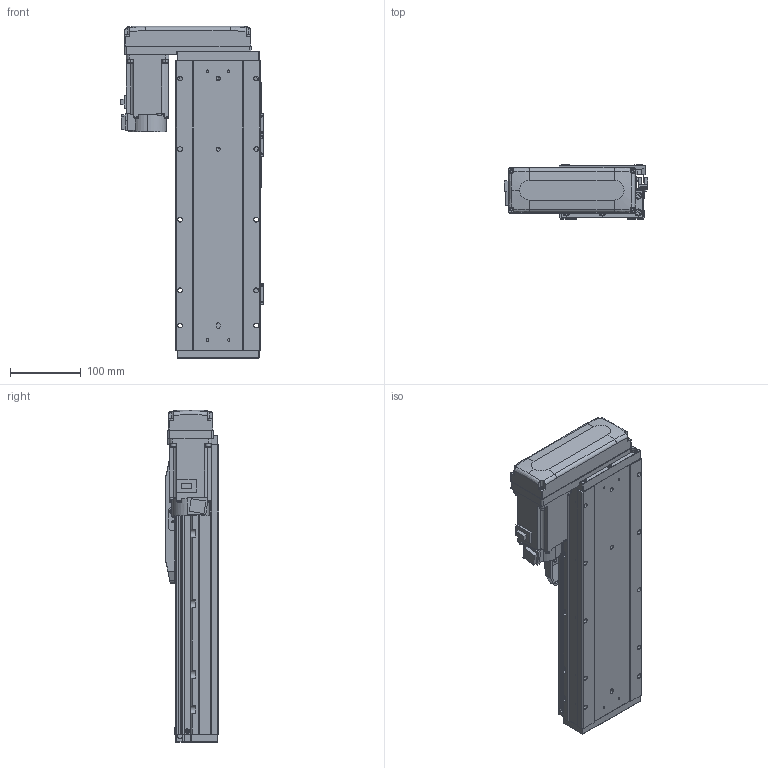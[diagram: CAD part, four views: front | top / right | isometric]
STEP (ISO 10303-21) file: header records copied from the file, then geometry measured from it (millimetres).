
FILE_DESCRIPTION (( 'STEP AP203' ), '1' );
FILE_NAME ('GTH12-200-BR-M40-C4.step', '2025-07-16T03:43:56', ( '' ), ( '' ), 'SwSTEP 2.0', 'SolidWorks 2023', '' );
FILE_SCHEMA (( 'CONFIG_CONTROL_DESIGN' ));
Length unit declared in the file: millimetre
Products named in the file (18): GTH80-022; GTH120-013; CTHA86-033_M40B; GTH50-023; GTH50-024; GTH12-200-BR-M40-C4; GBT 70.3-M3×8; GBT 70.1-M3×6; GTH120-003; hg-kn43j_-s100_; GTH120-006; BTH-M3X5X6; GTH120-004; GTH80-028; GBT96.1-2002 3×0.8; GTH120-001_200; GBT 70.1-M5×16; GTH120-027-1_GTH120-027-2
Assembly tree (59 placements, depth 2):
  GTH12-200-BR-M40-C4
    GTH120-001_200
    GTH120-003
    GTH120-006
    GTH120-004
    GTH120-013
    GBT 70.1-M3×6  x14
    GBT 70.1-M5×16  x10
    GBT 70.3-M3×8  x4
    GTH80-022
    GTH80-028  x2
    GTH50-023  x3
    GTH50-024  x3
    GBT96.1-2002 3×0.8  x6
    BTH-M3X5X6  x8
    hg-kn43j_-s100_
    CTHA86-033_M40B
    GTH120-027-1_GTH120-027-2
Bounding box: 203.5 x 76 x 470.5 mm (x, y, z)
Volume: 3919932.4 mm3; surface area: 445820.5 mm2
Topology: 61 solids, 61 shells, 2361 faces, 5478 edges, 3359 vertices
Faces by surface type: plane 1232, cylinder 665, cone 276, torus 174, sphere 8, bspline 6
Entity records: 43012 total; most frequent: CARTESIAN_POINT 7284, DIRECTION 7078, ORIENTED_EDGE 6566, EDGE_CURVE 3283, AXIS2_PLACEMENT_3D 2474, VECTOR 2130, LINE 2130, VERTEX_POINT 2080
